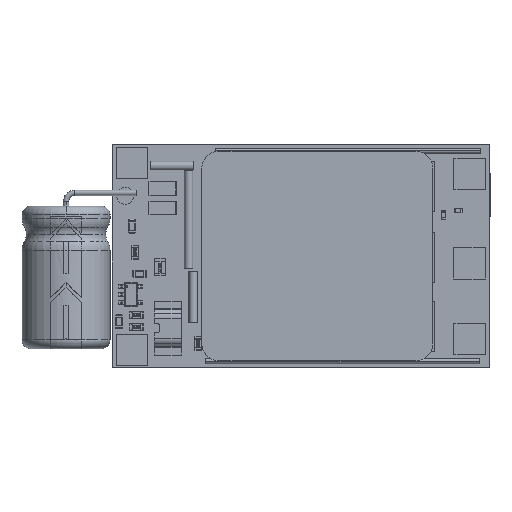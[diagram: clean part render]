
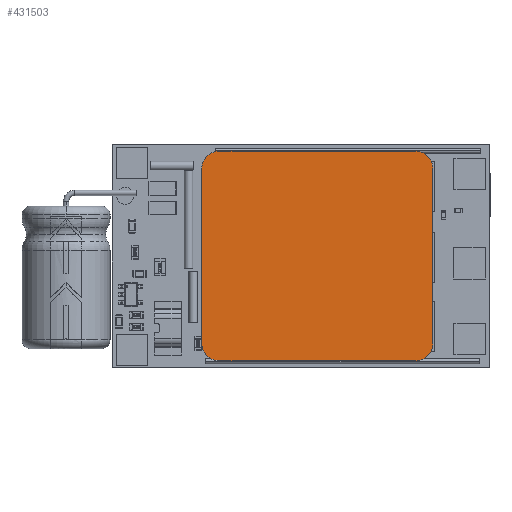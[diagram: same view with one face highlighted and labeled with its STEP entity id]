
A CAD part, top view. The second image highlights one B-rep face of the part: STEP entity #431503.
In plain terms, the highlighted planar face has unit normal (0, 0, 1).
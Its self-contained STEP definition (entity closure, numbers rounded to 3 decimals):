
#348 = EDGE_CURVE ( 'NONE', #344077, #122645, #410837, .T. ) ;
#5096 = ORIENTED_EDGE ( 'NONE', *, *, #222832, .T. ) ;
#13725 = EDGE_LOOP ( 'NONE', ( #5096, #53482, #193783, #263847, #83556, #497924, #26170, #329923 ) ) ;
#16967 = CARTESIAN_POINT ( 'NONE',  ( 15.757, 15.774, 46.502 ) ) ;
#17719 = CARTESIAN_POINT ( 'NONE',  ( 13.757, 15.774, 46.502 ) ) ;
#24081 = PLANE ( 'NONE',  #311954 ) ;
#26170 = ORIENTED_EDGE ( 'NONE', *, *, #31473, .T. ) ;
#31473 = EDGE_CURVE ( 'NONE', #243897, #344077, #488002, .T. ) ;
#38310 = CARTESIAN_POINT ( 'NONE',  ( 27.257, 28.024, 46.502 ) ) ;
#41808 = VERTEX_POINT ( 'NONE', #284163 ) ;
#51491 = CARTESIAN_POINT ( 'NONE',  ( 38.757, 15.774, 46.502 ) ) ;
#53482 = ORIENTED_EDGE ( 'NONE', *, *, #402017, .T. ) ;
#56223 = LINE ( 'NONE', #487210, #235316 ) ;
#83058 = CARTESIAN_POINT ( 'NONE',  ( 13.757, 38.274, 46.502 ) ) ;
#83556 = ORIENTED_EDGE ( 'NONE', *, *, #102229, .T. ) ;
#102229 = EDGE_CURVE ( 'NONE', #41808, #398703, #347494, .T. ) ;
#122645 = VERTEX_POINT ( 'NONE', #16967 ) ;
#127845 = DIRECTION ( 'NONE',  ( 0., 1., 0. ) ) ;
#157064 = AXIS2_PLACEMENT_3D ( 'NONE', #191913, #195402, #444386 ) ;
#181570 = AXIS2_PLACEMENT_3D ( 'NONE', #219073, #433478, #437016 ) ;
#191913 = CARTESIAN_POINT ( 'NONE',  ( 15.757, 38.274, 46.502 ) ) ;
#193783 = ORIENTED_EDGE ( 'NONE', *, *, #353028, .T. ) ;
#194667 = AXIS2_PLACEMENT_3D ( 'NONE', #287295, #411951, #453256 ) ;
#195402 = DIRECTION ( 'NONE',  ( 0., 0., 1. ) ) ;
#199181 = EDGE_CURVE ( 'NONE', #398703, #243897, #481178, .T. ) ;
#219073 = CARTESIAN_POINT ( 'NONE',  ( 38.757, 17.774, 46.502 ) ) ;
#222832 = EDGE_CURVE ( 'NONE', #122645, #292343, #477540, .T. ) ;
#231692 = DIRECTION ( 'NONE',  ( 0., 0., -1. ) ) ;
#234440 = DIRECTION ( 'NONE',  ( 0., 0., 1. ) ) ;
#235316 = VECTOR ( 'NONE', #127845, 1000. ) ;
#243897 = VERTEX_POINT ( 'NONE', #83058 ) ;
#263847 = ORIENTED_EDGE ( 'NONE', *, *, #330244, .T. ) ;
#270197 = DIRECTION ( 'NONE',  ( 1., 0., 0. ) ) ;
#279244 = DIRECTION ( 'NONE',  ( -1., 0., 0. ) ) ;
#283666 = CIRCLE ( 'NONE', #181570, 2. ) ;
#284163 = CARTESIAN_POINT ( 'NONE',  ( 38.757, 40.274, 46.502 ) ) ;
#285438 = DIRECTION ( 'NONE',  ( 0., -1., 0. ) ) ;
#287295 = CARTESIAN_POINT ( 'NONE',  ( 38.757, 38.274, 46.502 ) ) ;
#292343 = VERTEX_POINT ( 'NONE', #51491 ) ;
#299330 = VECTOR ( 'NONE', #285438, 1000. ) ;
#301410 = VERTEX_POINT ( 'NONE', #417355 ) ;
#303161 = VECTOR ( 'NONE', #270197, 1000. ) ;
#311954 = AXIS2_PLACEMENT_3D ( 'NONE', #38310, #231692, #363164 ) ;
#322953 = DIRECTION ( 'NONE',  ( -1., 0., 0. ) ) ;
#327190 = CARTESIAN_POINT ( 'NONE',  ( 13.757, 15.774, 46.502 ) ) ;
#329923 = ORIENTED_EDGE ( 'NONE', *, *, #348, .T. ) ;
#330244 = EDGE_CURVE ( 'NONE', #398457, #41808, #336204, .T. ) ;
#336204 = CIRCLE ( 'NONE', #194667, 2. ) ;
#344077 = VERTEX_POINT ( 'NONE', #521913 ) ;
#347494 = LINE ( 'NONE', #357331, #362548 ) ;
#353028 = EDGE_CURVE ( 'NONE', #301410, #398457, #56223, .T. ) ;
#355271 = CARTESIAN_POINT ( 'NONE',  ( 15.757, 17.774, 46.502 ) ) ;
#357331 = CARTESIAN_POINT ( 'NONE',  ( 13.757, 40.274, 46.502 ) ) ;
#362548 = VECTOR ( 'NONE', #322953, 1000. ) ;
#363164 = DIRECTION ( 'NONE',  ( -1., 0., 0. ) ) ;
#379232 = FACE_OUTER_BOUND ( 'NONE', #13725, .T. ) ;
#398457 = VERTEX_POINT ( 'NONE', #431926 ) ;
#398703 = VERTEX_POINT ( 'NONE', #467493 ) ;
#402017 = EDGE_CURVE ( 'NONE', #292343, #301410, #283666, .T. ) ;
#410837 = CIRCLE ( 'NONE', #458215, 2. ) ;
#411951 = DIRECTION ( 'NONE',  ( 0., 0., 1. ) ) ;
#417355 = CARTESIAN_POINT ( 'NONE',  ( 40.757, 17.774, 46.502 ) ) ;
#431503 = ADVANCED_FACE ( 'NONE', ( #379232 ), #24081, .F. ) ;
#431926 = CARTESIAN_POINT ( 'NONE',  ( 40.757, 38.274, 46.502 ) ) ;
#433478 = DIRECTION ( 'NONE',  ( 0., 0., 1. ) ) ;
#437016 = DIRECTION ( 'NONE',  ( -1., 0., 0. ) ) ;
#444386 = DIRECTION ( 'NONE',  ( -1., 0., 0. ) ) ;
#453256 = DIRECTION ( 'NONE',  ( -1., 0., 0. ) ) ;
#458215 = AXIS2_PLACEMENT_3D ( 'NONE', #355271, #234440, #279244 ) ;
#467493 = CARTESIAN_POINT ( 'NONE',  ( 15.757, 40.274, 46.502 ) ) ;
#477540 = LINE ( 'NONE', #17719, #303161 ) ;
#481178 = CIRCLE ( 'NONE', #157064, 2. ) ;
#487210 = CARTESIAN_POINT ( 'NONE',  ( 40.757, 15.774, 46.502 ) ) ;
#488002 = LINE ( 'NONE', #327190, #299330 ) ;
#497924 = ORIENTED_EDGE ( 'NONE', *, *, #199181, .T. ) ;
#521913 = CARTESIAN_POINT ( 'NONE',  ( 13.757, 17.774, 46.502 ) ) ;
